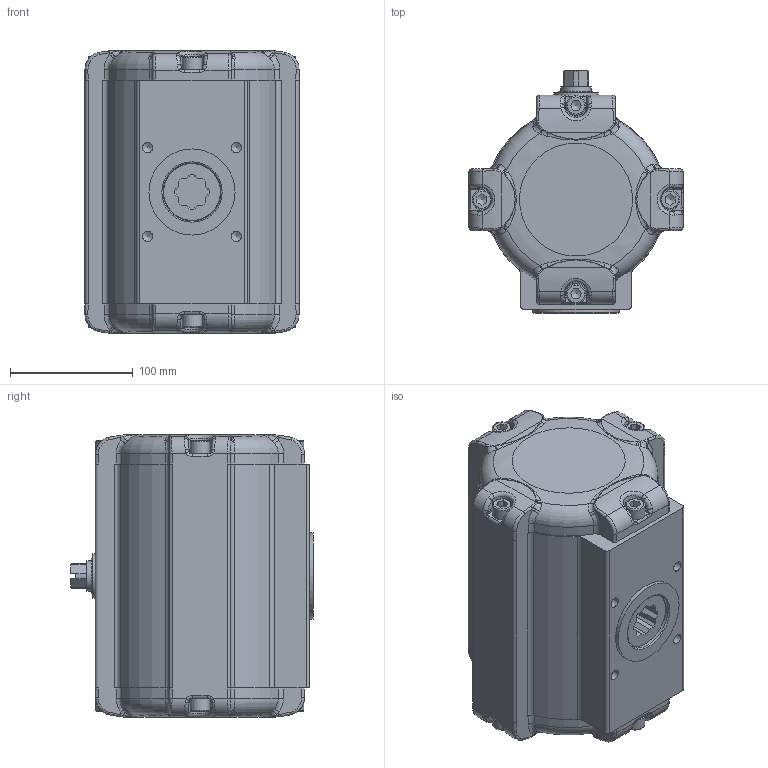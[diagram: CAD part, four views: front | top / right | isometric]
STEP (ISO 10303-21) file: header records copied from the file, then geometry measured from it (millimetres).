
FILE_DESCRIPTION((''),'2;1');
FILE_NAME('C:\Dokumente und Einstellungen\kir\Desktop\STEP IGES\SAD\SAD 30 BR03.stp','2006-12-19T09:51:15',('kir'),(''),'Autodesk Inventor 10','Autodesk Inventor 10','');
FILE_SCHEMA(('AUTOMOTIVE_DESIGN { 1 0 10303 214 1 1 1 1 }'));
Length unit declared in the file: millimetre
Products named in the file (1): ENG-039877
Bounding box: 174 x 196.8 x 230 mm (x, y, z)
Volume: 1568648.5 mm3; surface area: 339089.2 mm2
Topology: 6 solids, 6 shells, 894 faces, 2286 edges, 1423 vertices
Faces by surface type: bspline 309, plane 265, cylinder 238, torus 42, cone 40
Full cylindrical faces by diameter (mm): 8.376 x4, 10 x8, 10.5 x4, 16 x4, 20 x1, 20.8 x1, 21 x1, 23.5 x1, 24.8 x3, 25.1 x1, 32 x1, 36 x1, 41.9 x1, 43 x1, 46.8 x3, 70 x1, 131 x1, 135 x1, 139.548 x1
Entity records: 63700 total; most frequent: CARTESIAN_POINT 45071, ORIENTED_EDGE 4108, DIRECTION 3342, EDGE_CURVE 2054, AXIS2_PLACEMENT_3D 1361, VERTEX_POINT 1324, EDGE_LOOP 1074, FACE_OUTER_BOUND 894
